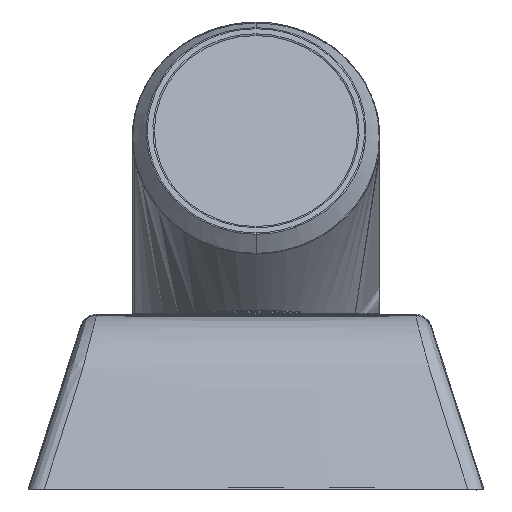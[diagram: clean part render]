
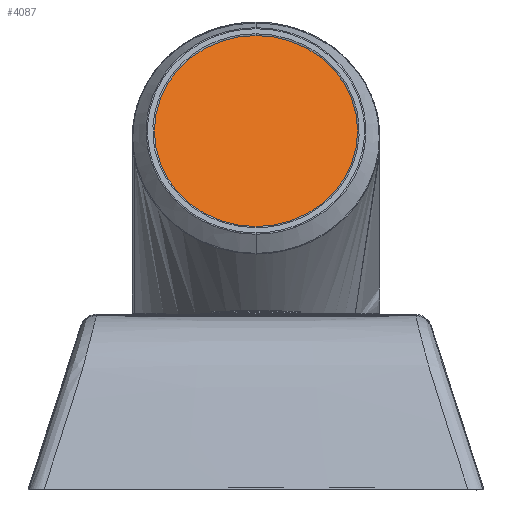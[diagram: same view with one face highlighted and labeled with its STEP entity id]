
A CAD part, front view. The second image highlights one B-rep face of the part: STEP entity #4087.
In plain terms, the highlighted planar face has unit normal (0, -0.94, 0.342).
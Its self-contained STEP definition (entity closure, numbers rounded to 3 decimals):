
#178 = CARTESIAN_POINT ( 'NONE',  ( 0., 1002.493, 141.143 ) ) ;
#1929 = VERTEX_POINT ( 'NONE', #9085 ) ;
#2011 = DIRECTION ( 'NONE',  ( 0., 0.342, 0.94 ) ) ;
#2031 = ORIENTED_EDGE ( 'NONE', *, *, #5273, .F. ) ;
#2110 = DIRECTION ( 'NONE',  ( 0., 0.342, 0.94 ) ) ;
#2231 = CARTESIAN_POINT ( 'NONE',  ( 0., 992.164, 112.765 ) ) ;
#3515 = DIRECTION ( 'NONE',  ( 0., 0.342, 0.94 ) ) ;
#3545 = EDGE_CURVE ( 'NONE', #1929, #5506, #6909, .T. ) ;
#4087 = ADVANCED_FACE ( 'NONE', ( #9004 ), #7930, .F. ) ;
#4132 = ORIENTED_EDGE ( 'NONE', *, *, #3545, .F. ) ;
#4703 = AXIS2_PLACEMENT_3D ( 'NONE', #12176, #8329, #3515 ) ;
#5273 = EDGE_CURVE ( 'NONE', #5506, #1929, #10771, .T. ) ;
#5284 = AXIS2_PLACEMENT_3D ( 'NONE', #11774, #10835, #2110 ) ;
#5506 = VERTEX_POINT ( 'NONE', #2231 ) ;
#6909 = CIRCLE ( 'NONE', #9343, 30.2 ) ;
#7167 = EDGE_LOOP ( 'NONE', ( #2031, #4132 ) ) ;
#7930 = PLANE ( 'NONE',  #5284 ) ;
#8329 = DIRECTION ( 'NONE',  ( 0., 0.94, -0.342 ) ) ;
#9004 = FACE_OUTER_BOUND ( 'NONE', #7167, .T. ) ;
#9085 = CARTESIAN_POINT ( 'NONE',  ( 0., 1012.822, 169.522 ) ) ;
#9343 = AXIS2_PLACEMENT_3D ( 'NONE', #178, #10684, #2011 ) ;
#10684 = DIRECTION ( 'NONE',  ( 0., 0.94, -0.342 ) ) ;
#10771 = CIRCLE ( 'NONE', #4703, 30.2 ) ;
#10835 = DIRECTION ( 'NONE',  ( 0., 0.94, -0.342 ) ) ;
#11774 = CARTESIAN_POINT ( 'NONE',  ( 0., 1002.493, 141.143 ) ) ;
#12176 = CARTESIAN_POINT ( 'NONE',  ( 0., 1002.493, 141.143 ) ) ;
